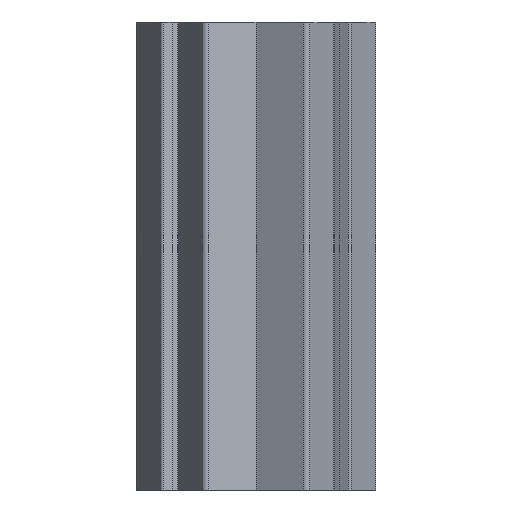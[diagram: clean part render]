
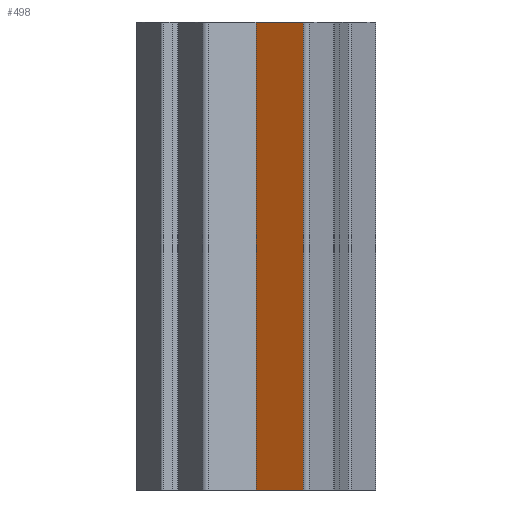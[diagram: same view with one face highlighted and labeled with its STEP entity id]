
A CAD part, front view. The second image highlights one B-rep face of the part: STEP entity #498.
In plain terms, the highlighted planar face has unit normal (-0.5, -0.866, 0).
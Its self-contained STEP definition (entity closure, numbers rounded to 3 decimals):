
#228 = VERTEX_POINT ( 'NONE', #618 ) ;
#244 = PLANE ( 'NONE',  #449 ) ;
#266 = VERTEX_POINT ( 'NONE', #343 ) ;
#294 = VECTOR ( 'NONE', #1476, 1000. ) ;
#343 = CARTESIAN_POINT ( 'NONE',  ( 0., -14.338, -50. ) ) ;
#408 = EDGE_CURVE ( 'NONE', #2078, #2487, #1950, .T. ) ;
#445 = ORIENTED_EDGE ( 'NONE', *, *, #408, .T. ) ;
#449 = AXIS2_PLACEMENT_3D ( 'NONE', #2741, #1245, #779 ) ;
#498 = ADVANCED_FACE ( 'NONE', ( #2981 ), #244, .T. ) ;
#511 = LINE ( 'NONE', #574, #2494 ) ;
#574 = CARTESIAN_POINT ( 'NONE',  ( 0., -14.338, -50. ) ) ;
#618 = CARTESIAN_POINT ( 'NONE',  ( 0., -14.338, 50. ) ) ;
#779 = DIRECTION ( 'NONE',  ( 0.866, -0.5, 0. ) ) ;
#990 = LINE ( 'NONE', #1017, #3108 ) ;
#1017 = CARTESIAN_POINT ( 'NONE',  ( 0., -14.338, -50. ) ) ;
#1145 = ORIENTED_EDGE ( 'NONE', *, *, #2845, .T. ) ;
#1245 = DIRECTION ( 'NONE',  ( -0.5, -0.866, 0. ) ) ;
#1301 = EDGE_LOOP ( 'NONE', ( #2861, #2242, #1145, #445 ) ) ;
#1446 = CARTESIAN_POINT ( 'NONE',  ( 10.115, -20.178, 50. ) ) ;
#1476 = DIRECTION ( 'NONE',  ( 0., 0., 1. ) ) ;
#1916 = CARTESIAN_POINT ( 'NONE',  ( 10.115, -20.178, -50. ) ) ;
#1950 = LINE ( 'NONE', #1916, #294 ) ;
#2078 = VERTEX_POINT ( 'NONE', #2248 ) ;
#2120 = CARTESIAN_POINT ( 'NONE',  ( 0., -14.338, 50. ) ) ;
#2128 = EDGE_CURVE ( 'NONE', #266, #228, #511, .T. ) ;
#2239 = EDGE_CURVE ( 'NONE', #228, #2487, #2399, .T. ) ;
#2242 = ORIENTED_EDGE ( 'NONE', *, *, #2128, .F. ) ;
#2248 = CARTESIAN_POINT ( 'NONE',  ( 10.115, -20.178, -50. ) ) ;
#2298 = DIRECTION ( 'NONE',  ( 0., 0., 1. ) ) ;
#2399 = LINE ( 'NONE', #2120, #3070 ) ;
#2487 = VERTEX_POINT ( 'NONE', #1446 ) ;
#2494 = VECTOR ( 'NONE', #2298, 1000. ) ;
#2595 = DIRECTION ( 'NONE',  ( 0.866, -0.5, 0. ) ) ;
#2720 = DIRECTION ( 'NONE',  ( 0.866, -0.5, 0. ) ) ;
#2741 = CARTESIAN_POINT ( 'NONE',  ( 0., -14.338, -50. ) ) ;
#2845 = EDGE_CURVE ( 'NONE', #266, #2078, #990, .T. ) ;
#2861 = ORIENTED_EDGE ( 'NONE', *, *, #2239, .F. ) ;
#2981 = FACE_OUTER_BOUND ( 'NONE', #1301, .T. ) ;
#3070 = VECTOR ( 'NONE', #2595, 1000. ) ;
#3108 = VECTOR ( 'NONE', #2720, 1000. ) ;
